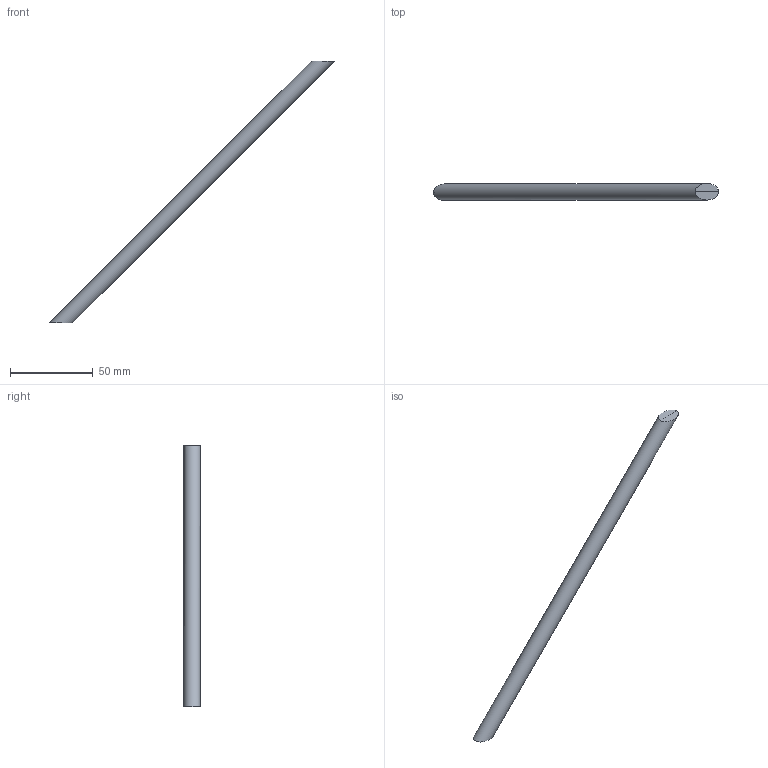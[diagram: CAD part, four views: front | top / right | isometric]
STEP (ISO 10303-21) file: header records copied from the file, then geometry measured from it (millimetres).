
FILE_DESCRIPTION(/* description */ (''),/* implementation_level */ '2;1');
FILE_NAME(/* name */ 'M:\Symbolen_NIEUW\STP\20-er truss\E20D\E20D-L050_111020007.stp',/* time_stamp */ '2017-11-16T13:26:28+01:00',/* author */ ('Kees'),/* organization */ (''),/* preprocessor_version */ 'ST-DEVELOPER v16.13',/* originating_system */ 'Autodesk Inventor 2018',/* authorisation */ '');
FILE_SCHEMA (('AUTOMOTIVE_DESIGN { 1 0 10303 214 3 1 1 }'));
Length unit declared in the file: millimetre
Products named in the file (1): 160008248
Bounding box: 172.14 x 9.99 x 158 mm (x, y, z)
Volume: 17549.4 mm3; surface area: 7241.9 mm2
Topology: 1 solids, 1 shells, 5 faces, 7 edges, 4 vertices
Faces by surface type: plane 4, cylinder 1
Full cylindrical faces by diameter (mm): 10 x1
Entity records: 149 total; most frequent: DIRECTION 22, CARTESIAN_POINT 16, ORIENTED_EDGE 12, AXIS2_PLACEMENT_3D 10, EDGE_LOOP 6, EDGE_CURVE 6, STYLED_ITEM 6, FACE_OUTER_BOUND 5
